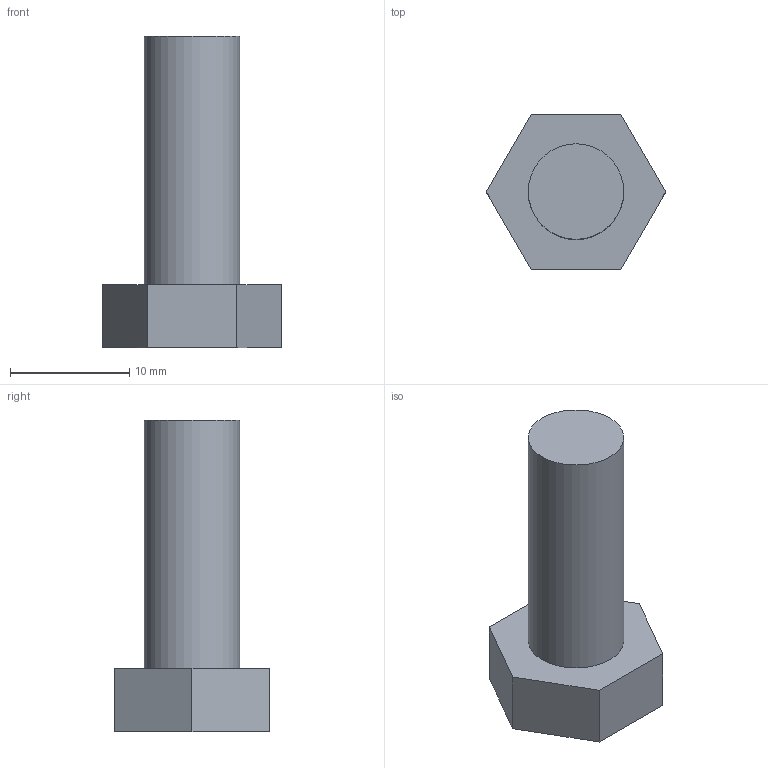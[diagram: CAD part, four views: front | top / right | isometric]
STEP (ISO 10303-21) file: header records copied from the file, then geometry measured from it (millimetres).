
FILE_DESCRIPTION(('Open CASCADE Model'),'2;1');
FILE_NAME('Open CASCADE Shape Model','2026-11-23T18:10:07',('Author'),( 'Open CASCADE'),'Open CASCADE STEP processor 8.0','build123d', 'Unknown');
FILE_SCHEMA(('AUTOMOTIVE_DESIGN { 1 0 10303 214 1 1 1 1 }'));
Length unit declared in the file: millimetre
Products named in the file (1): SOLID
Bounding box: 15.01 x 13 x 26.1 mm (x, y, z)
Volume: 1821.2 mm3; surface area: 1054.2 mm2
Topology: 1 solids, 1 shells, 10 faces, 21 edges, 14 vertices
Faces by surface type: plane 9, cylinder 1
Full cylindrical faces by diameter (mm): 8 x1
Entity records: 550 total; most frequent: CARTESIAN_POINT 88, DIRECTION 87, LINE 59, VECTOR 59, ORIENTED_EDGE 42, PCURVE 42, DEFINITIONAL_REPRESENTATION 42, EDGE_CURVE 21
